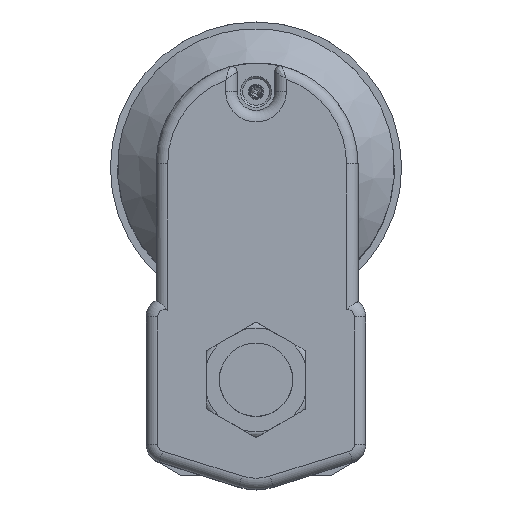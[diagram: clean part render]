
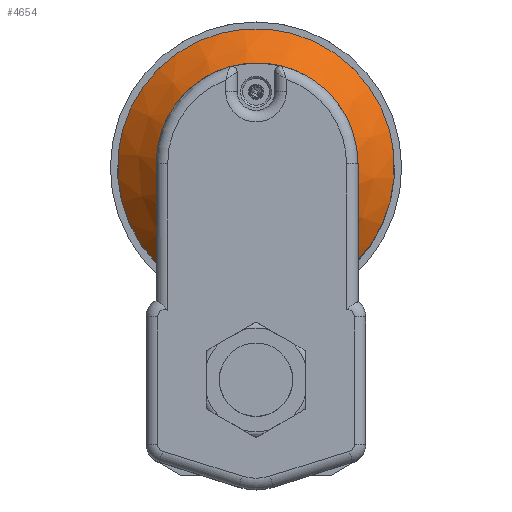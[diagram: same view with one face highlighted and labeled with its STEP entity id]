
A CAD part, top view. The second image highlights one B-rep face of the part: STEP entity #4654.
In plain terms, the highlighted conical face has half-angle 45 degrees and reference radius 48 mm.
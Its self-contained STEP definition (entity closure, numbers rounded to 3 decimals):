
#39 = ORIENTED_EDGE ( 'NONE', *, *, #5714, .T. ) ;
#42 = ORIENTED_EDGE ( 'NONE', *, *, #5626, .F. ) ;
#43 = ORIENTED_EDGE ( 'NONE', *, *, #5671, .T. ) ;
#1324 = CARTESIAN_POINT ( 'NONE',  ( -27.908, 34.847, 53.5 ) ) ;
#1325 = CARTESIAN_POINT ( 'NONE',  ( 27.908, 34.847, 53.5 ) ) ;
#1520 = VERTEX_POINT ( 'NONE', #1521 ) ;
#1521 = CARTESIAN_POINT ( 'NONE',  ( 0., 39.9, 67.5 ) ) ;
#3049 = CIRCLE ( 'NONE', #9549, 34. ) ;
#3110 = CIRCLE ( 'NONE', #9566, 48. ) ;
#4089 = EDGE_LOOP ( 'NONE', ( #43, #39 ) ) ;
#4092 = EDGE_LOOP ( 'NONE', ( #42 ) ) ;
#4330 = FACE_BOUND ( 'NONE', #4092, .T. ) ;
#4331 = CONICAL_SURFACE ( 'NONE', #6043, 48., 0.785 ) ;
#4333 = FACE_OUTER_BOUND ( 'NONE', #4089, .T. ) ;
#4654 = ADVANCED_FACE ( 'NONE', ( #4330, #4333 ), #4331, .T. ) ;
#5626 = EDGE_CURVE ( 'NONE', #1520, #1520, #3049, .T. ) ;
#5671 = EDGE_CURVE ( 'NONE', #7152, #7151, #3110, .T. ) ;
#5714 = EDGE_CURVE ( 'NONE', #7151, #7152, #9707, .T. ) ;
#6043 = AXIS2_PLACEMENT_3D ( 'NONE', #7804, #7808, #7807 ) ;
#7151 = VERTEX_POINT ( 'NONE', #1324 ) ;
#7152 = VERTEX_POINT ( 'NONE', #1325 ) ;
#7804 = CARTESIAN_POINT ( 'NONE',  ( 0., 73.9, 53.5 ) ) ;
#7807 = DIRECTION ( 'NONE',  ( 0., 1., 0. ) ) ;
#7808 = DIRECTION ( 'NONE',  ( 0., 0., -1. ) ) ;
#8667 = CARTESIAN_POINT ( 'NONE',  ( 0., 73.9, 67.5 ) ) ;
#8676 = DIRECTION ( 'NONE',  ( 0., 0., 1. ) ) ;
#8677 = DIRECTION ( 'NONE',  ( 0., -1., 0. ) ) ;
#8801 = CARTESIAN_POINT ( 'NONE',  ( 0., 73.9, 53.5 ) ) ;
#8833 = DIRECTION ( 'NONE',  ( 0., 0., 1. ) ) ;
#8834 = DIRECTION ( 'NONE',  ( 0., -1., 0. ) ) ;
#8938 = CARTESIAN_POINT ( 'NONE',  ( -27.908, 34.847, 53.5 ) ) ;
#8943 = CARTESIAN_POINT ( 'NONE',  ( -26.826, 34.768, 54.065 ) ) ;
#8944 = CARTESIAN_POINT ( 'NONE',  ( -25.733, 34.688, 54.609 ) ) ;
#8945 = CARTESIAN_POINT ( 'NONE',  ( -23.531, 34.53, 55.644 ) ) ;
#8946 = CARTESIAN_POINT ( 'NONE',  ( -22.421, 34.452, 56.137 ) ) ;
#8947 = CARTESIAN_POINT ( 'NONE',  ( -19.06, 34.223, 57.53 ) ) ;
#8948 = CARTESIAN_POINT ( 'NONE',  ( -16.779, 34.077, 58.344 ) ) ;
#8949 = CARTESIAN_POINT ( 'NONE',  ( -13.28, 33.887, 59.356 ) ) ;
#8950 = CARTESIAN_POINT ( 'NONE',  ( -12.101, 33.829, 59.657 ) ) ;
#8951 = CARTESIAN_POINT ( 'NONE',  ( -9.715, 33.725, 60.183 ) ) ;
#8952 = CARTESIAN_POINT ( 'NONE',  ( -8.505, 33.679, 60.407 ) ) ;
#8953 = CARTESIAN_POINT ( 'NONE',  ( -6.081, 33.605, 60.767 ) ) ;
#8954 = CARTESIAN_POINT ( 'NONE',  ( -4.863, 33.577, 60.903 ) ) ;
#8955 = CARTESIAN_POINT ( 'NONE',  ( -2.415, 33.538, 61.085 ) ) ;
#8956 = CARTESIAN_POINT ( 'NONE',  ( -1.188, 33.529, 61.13 ) ) ;
#8957 = CARTESIAN_POINT ( 'NONE',  ( 2.477, 33.529, 61.127 ) ) ;
#8958 = CARTESIAN_POINT ( 'NONE',  ( 4.908, 33.569, 60.942 ) ) ;
#8959 = CARTESIAN_POINT ( 'NONE',  ( 8.537, 33.68, 60.402 ) ) ;
#8960 = CARTESIAN_POINT ( 'NONE',  ( 9.746, 33.726, 60.177 ) ) ;
#8961 = CARTESIAN_POINT ( 'NONE',  ( 12.13, 33.83, 59.65 ) ) ;
#8962 = CARTESIAN_POINT ( 'NONE',  ( 13.307, 33.888, 59.348 ) ) ;
#8963 = CARTESIAN_POINT ( 'NONE',  ( 16.801, 34.078, 58.337 ) ) ;
#8964 = CARTESIAN_POINT ( 'NONE',  ( 19.078, 34.224, 57.523 ) ) ;
#8965 = CARTESIAN_POINT ( 'NONE',  ( 23.55, 34.529, 55.668 ) ) ;
#8966 = CARTESIAN_POINT ( 'NONE',  ( 25.745, 34.688, 54.629 ) ) ;
#8967 = CARTESIAN_POINT ( 'NONE',  ( 27.908, 34.847, 53.5 ) ) ;
#9549 = AXIS2_PLACEMENT_3D ( 'NONE', #8667, #8676, #8677 ) ;
#9566 = AXIS2_PLACEMENT_3D ( 'NONE', #8801, #8833, #8834 ) ;
#9707 = B_SPLINE_CURVE_WITH_KNOTS ( 'NONE', 3,
 ( #8938, #8943, #8944, #8945, #8946, #8947, #8948, #8949, #8950, #8951, #8952, #8953, #8954, #8955, #8956, #8957, #8958, #8959, #8960, #8961, #8962, #8963, #8964, #8965, #8966, #8967 ),
 .UNSPECIFIED., .F., .F.,
 ( 4, 2, 2, 2, 2, 2, 2, 2, 2, 2, 2, 2, 4 ),
 ( 0., 0.004, 0.007, 0.015, 0.018, 0.022, 0.026, 0.029, 0.037, 0.04, 0.044, 0.051, 0.059 ),
 .UNSPECIFIED. ) ;
